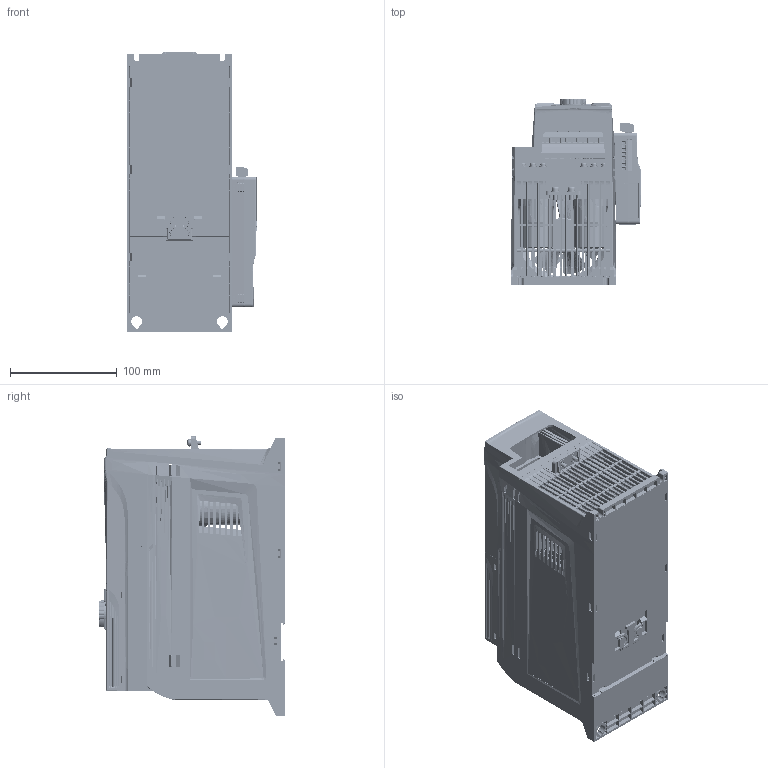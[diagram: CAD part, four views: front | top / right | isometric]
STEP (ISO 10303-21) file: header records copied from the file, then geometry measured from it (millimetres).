
FILE_DESCRIPTION((''),'2;1');
FILE_NAME('0CA700-5R5_ASM','2025-03-27T',('Administrator'),(''),'PRO/ENGINEER BY PARAMETRIC TECHNOLOGY CORPORATION, 2010280','PRO/ENGINEER BY PARAMETRIC TECHNOLOGY CORPORATION, 2010280','');
FILE_SCHEMA(('AUTOMOTIVE_DESIGN_CC2 { 1 2 10303 214 -1 1 5 2 }'));
Products named in the file (135): CA700-5R5-SR-01-A; CA700-5R5DRI-VA01; BYQ_GM600_1; 2_13-2_54_8_5_24; DANGUAN_20A_W_1; ZLQ2_1; EU5-03-953-1; MANIFOLD_SOLID_BREP_47471_1; TO-247_1; FSDZ-2P_1; BA3-09-9R52-00D; GB9074-8-1988-M3X8; CA700-5R5DRI-VA01_ASM; CA700-5R5CAP-VA01; TZM3X10; CAP-560UF_30_50_1; CAP1; CA700-5R5CAP-VA01_ASM; CA700-5R5-PCBA_ASM; FAN_8025; TEMPERATURE; GB9074-8-1988-M4X10; GB9074-8-1988-M3X16; CA700-5R5-DEVICE_ASM; CA700-5R5-SJ-01; CA700-5R5-SJ-02; CA700-5R5-SJ-04; CA700-5R5-SJ-07; CA700-5R5-SJ-06; CA700-1R5-SJ-09-A01_1; PE_1; S-M4-ZC_1; CA700-1R5-PE-01-A01_ASM_1_ASM; CA700-1R5-SJ-03_A_53; CA700-1R5-SJ-05_A_7; CA700-1R5-SJ-11_A_14; CA700-1R5-GJ-01_A_6; CA700-1R5-SJ-JP_ASM_5_ASM; CA700-1R5-SJ-10_A_203; CA700-1R5-SJ-13_A_59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
Assembly tree (219 placements, depth 8):
  0CA700-5R5_ASM
    CA700-5R5-SR-01-A
    CA700-5R5-PCBA_ASM
      CA700-5R5DRI-VA01_ASM
        CA700-5R5DRI-VA01
        BYQ_GM600_1
        2_13-2_54_8_5_24
        DANGUAN_20A_W_1  x7
        ZLQ2_1
        EU5-03-953-1  x9
        MANIFOLD_SOLID_BREP_47471_1
        TO-247_1  x7
        FSDZ-2P_1
        BA3-09-9R52-00D
        GB9074-8-1988-M3X8  x9
      CA700-5R5CAP-VA01_ASM
        CA700-5R5CAP-VA01
        TZM3X10  x3
        CAP-560UF_30_50_1  x4
        CAP1
    CA700-5R5-DEVICE_ASM
      FAN_8025
      TEMPERATURE
      GB9074-8-1988-M4X10  x3
      GB9074-8-1988-M3X8  x11
      GB9074-8-1988-M3X16  x7
    CA700-5R5-SJ_ASM
      CA700-5R5-SJ-01
      CA700-5R5-SJ-02
      CA700-5R5-SJ-04
      CA700-5R5-SJ-07
      CA700-5R5-SJ-06
      CA700-1R5-SJ-09-A01_1
      CA700-1R5-PE-01-A01_ASM_1_ASM
        PE_1
        S-M4-ZC_1  x2
      CA700-1R5-A01_ASM-GY01_ASM
        CA700-1R5-A01_ASM_134_ASM
          CA700-1R5-SJ-A01_ASM_22_ASM
            CA700-1R5-SJ-03_A_53
            CA700-1R5-SJ-JP_ASM_5_ASM
              CA700-1R5-SJ-05_A_7
              CA700-1R5-SJ-11_A_14
              CA700-1R5-GJ-01_A_6
            CA700-1R5-SJ-JP-02_ASM_55_ASM
              CA700-1R5-SJ-10_A_203
              CA700-1R5-SJ-11_A_14
              CA700-1R5-SJ-13_A_59
              CA700-1R5-GJ-02_A_73
          ASM0001_ASM
            CA700-CM-01-A01_ASM_5_ASM
              PRT0001
              PRT0002
              PRT0003
              PRT0004
              PRT0005
              D32-2_54-08P_6
              PRT0006
              MANIFOLD_SOLID_BREP_2072_2  x6
              PRT0007  x7
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Bounding box: 121.38 x 174.31 x 261.25 mm (x, y, z)
Volume: 1119813.7 mm3; surface area: 1226203.2 mm2
Topology: 241 solids, 241 shells, 30871 faces, 83683 edges, 54605 vertices
Faces by surface type: plane 19476, cylinder 7227, bspline 1785, extrusion 940, cone 741, torus 531, sphere 169, revolution 2
Entity records: 1136209 total; most frequent: CARTESIAN_POINT 253143, ORIENTED_EDGE 140814, DIRECTION 123852, EDGE_CURVE 70407, PRESENTATION_STYLE_ASSIGNMENT 60020, STYLED_ITEM 57566, VECTOR 49342, LINE 48826
